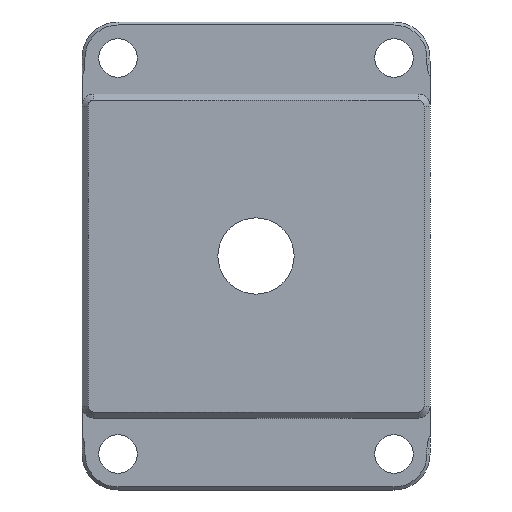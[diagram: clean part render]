
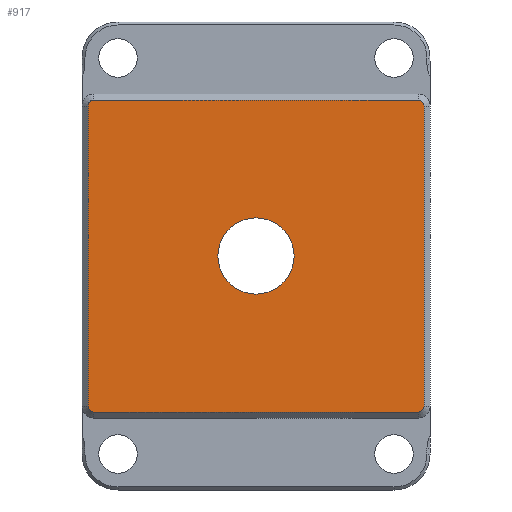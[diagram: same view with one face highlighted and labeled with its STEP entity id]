
A CAD part, front view. The second image highlights one B-rep face of the part: STEP entity #917.
In plain terms, the highlighted planar face has unit normal (0, -1, 0).
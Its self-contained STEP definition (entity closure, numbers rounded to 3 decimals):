
#11 = AXIS2_PLACEMENT_3D ( 'NONE', #1232, #417, #1089 ) ;
#17 = ORIENTED_EDGE ( 'NONE', *, *, #125, .T. ) ;
#23 = DIRECTION ( 'NONE',  ( -1., 0., 0. ) ) ;
#42 = ORIENTED_EDGE ( 'NONE', *, *, #1201, .T. ) ;
#57 = ORIENTED_EDGE ( 'NONE', *, *, #349, .T. ) ;
#78 = VECTOR ( 'NONE', #509, 1000. ) ;
#88 = DIRECTION ( 'NONE',  ( 0., -1., 0. ) ) ;
#93 = EDGE_CURVE ( 'NONE', #1820, #1495, #1794, .T. ) ;
#110 = CARTESIAN_POINT ( 'NONE',  ( -13.5, -6., 13. ) ) ;
#124 = PLANE ( 'NONE',  #1065 ) ;
#125 = EDGE_CURVE ( 'NONE', #271, #945, #1291, .T. ) ;
#131 = AXIS2_PLACEMENT_3D ( 'NONE', #163, #837, #305 ) ;
#152 = CIRCLE ( 'NONE', #131, 0.5 ) ;
#163 = CARTESIAN_POINT ( 'NONE',  ( -13.5, -6., -12.5 ) ) ;
#171 = CIRCLE ( 'NONE', #238, 3.175 ) ;
#175 = VERTEX_POINT ( 'NONE', #1063 ) ;
#215 = EDGE_LOOP ( 'NONE', ( #482, #42, #1434, #914, #17, #57, #1370, #1487 ) ) ;
#222 = FACE_BOUND ( 'NONE', #1146, .T. ) ;
#228 = CARTESIAN_POINT ( 'NONE',  ( 14., -6., 12.5 ) ) ;
#238 = AXIS2_PLACEMENT_3D ( 'NONE', #265, #935, #428 ) ;
#265 = CARTESIAN_POINT ( 'NONE',  ( 0., -6., 0. ) ) ;
#271 = VERTEX_POINT ( 'NONE', #1412 ) ;
#294 = VERTEX_POINT ( 'NONE', #1558 ) ;
#305 = DIRECTION ( 'NONE',  ( 0., 0., 1. ) ) ;
#349 = EDGE_CURVE ( 'NONE', #945, #1820, #660, .T. ) ;
#389 = AXIS2_PLACEMENT_3D ( 'NONE', #897, #88, #916 ) ;
#417 = DIRECTION ( 'NONE',  ( 0., -1., 0. ) ) ;
#428 = DIRECTION ( 'NONE',  ( 0., 0., -1. ) ) ;
#453 = EDGE_CURVE ( 'NONE', #1495, #1107, #688, .T. ) ;
#482 = ORIENTED_EDGE ( 'NONE', *, *, #1583, .T. ) ;
#507 = DIRECTION ( 'NONE',  ( 0., 1., 0. ) ) ;
#509 = DIRECTION ( 'NONE',  ( 0., 0., -1. ) ) ;
#515 = CARTESIAN_POINT ( 'NONE',  ( -14., -6., -12.5 ) ) ;
#522 = DIRECTION ( 'NONE',  ( 0., 0., 1. ) ) ;
#530 = VECTOR ( 'NONE', #23, 1000. ) ;
#591 = ORIENTED_EDGE ( 'NONE', *, *, #1067, .F. ) ;
#660 = LINE ( 'NONE', #976, #530 ) ;
#663 = CARTESIAN_POINT ( 'NONE',  ( -14., -6., 12.5 ) ) ;
#688 = LINE ( 'NONE', #515, #78 ) ;
#723 = CARTESIAN_POINT ( 'NONE',  ( 0., -6., 0. ) ) ;
#728 = FACE_OUTER_BOUND ( 'NONE', #215, .T. ) ;
#752 = CARTESIAN_POINT ( 'NONE',  ( 0., -6., 3.175 ) ) ;
#799 = CARTESIAN_POINT ( 'NONE',  ( 13.5, -6., -13. ) ) ;
#824 = EDGE_CURVE ( 'NONE', #1620, #294, #1473, .T. ) ;
#837 = DIRECTION ( 'NONE',  ( 0., -1., 0. ) ) ;
#840 = CARTESIAN_POINT ( 'NONE',  ( -14., -6., -12.5 ) ) ;
#897 = CARTESIAN_POINT ( 'NONE',  ( 13.5, -6., 12.5 ) ) ;
#914 = ORIENTED_EDGE ( 'NONE', *, *, #1077, .T. ) ;
#916 = DIRECTION ( 'NONE',  ( 0., 0., 1. ) ) ;
#917 = ADVANCED_FACE ( 'NONE', ( #728, #222 ), #124, .F. ) ;
#933 = LINE ( 'NONE', #1013, #946 ) ;
#935 = DIRECTION ( 'NONE',  ( 0., -1., 0. ) ) ;
#945 = VERTEX_POINT ( 'NONE', #1196 ) ;
#946 = VECTOR ( 'NONE', #1728, 1000. ) ;
#976 = CARTESIAN_POINT ( 'NONE',  ( -13.5, -6., 13. ) ) ;
#1013 = CARTESIAN_POINT ( 'NONE',  ( 13.5, -6., -13. ) ) ;
#1019 = AXIS2_PLACEMENT_3D ( 'NONE', #1569, #1717, #1684 ) ;
#1063 = CARTESIAN_POINT ( 'NONE',  ( -13.5, -6., -13. ) ) ;
#1065 = AXIS2_PLACEMENT_3D ( 'NONE', #1793, #507, #1238 ) ;
#1067 = EDGE_CURVE ( 'NONE', #1173, #1673, #171, .T. ) ;
#1077 = EDGE_CURVE ( 'NONE', #294, #271, #1548, .T. ) ;
#1089 = DIRECTION ( 'NONE',  ( 0., 0., 1. ) ) ;
#1100 = CARTESIAN_POINT ( 'NONE',  ( 0., -6., -3.175 ) ) ;
#1107 = VERTEX_POINT ( 'NONE', #840 ) ;
#1146 = EDGE_LOOP ( 'NONE', ( #591, #1195 ) ) ;
#1173 = VERTEX_POINT ( 'NONE', #1100 ) ;
#1191 = VECTOR ( 'NONE', #522, 1000. ) ;
#1195 = ORIENTED_EDGE ( 'NONE', *, *, #1359, .F. ) ;
#1196 = CARTESIAN_POINT ( 'NONE',  ( 13.5, -6., 13. ) ) ;
#1201 = EDGE_CURVE ( 'NONE', #175, #1620, #933, .T. ) ;
#1232 = CARTESIAN_POINT ( 'NONE',  ( 13.5, -6., -12.5 ) ) ;
#1238 = DIRECTION ( 'NONE',  ( 0., 0., 1. ) ) ;
#1291 = CIRCLE ( 'NONE', #389, 0.5 ) ;
#1359 = EDGE_CURVE ( 'NONE', #1673, #1173, #1577, .T. ) ;
#1370 = ORIENTED_EDGE ( 'NONE', *, *, #93, .T. ) ;
#1412 = CARTESIAN_POINT ( 'NONE',  ( 14., -6., 12.5 ) ) ;
#1428 = AXIS2_PLACEMENT_3D ( 'NONE', #723, #1719, #1564 ) ;
#1434 = ORIENTED_EDGE ( 'NONE', *, *, #824, .T. ) ;
#1473 = CIRCLE ( 'NONE', #11, 0.5 ) ;
#1487 = ORIENTED_EDGE ( 'NONE', *, *, #453, .T. ) ;
#1495 = VERTEX_POINT ( 'NONE', #663 ) ;
#1548 = LINE ( 'NONE', #228, #1191 ) ;
#1558 = CARTESIAN_POINT ( 'NONE',  ( 14., -6., -12.5 ) ) ;
#1564 = DIRECTION ( 'NONE',  ( 0., 0., -1. ) ) ;
#1569 = CARTESIAN_POINT ( 'NONE',  ( -13.5, -6., 12.5 ) ) ;
#1577 = CIRCLE ( 'NONE', #1428, 3.175 ) ;
#1583 = EDGE_CURVE ( 'NONE', #1107, #175, #152, .T. ) ;
#1620 = VERTEX_POINT ( 'NONE', #799 ) ;
#1673 = VERTEX_POINT ( 'NONE', #752 ) ;
#1684 = DIRECTION ( 'NONE',  ( 0., 0., 1. ) ) ;
#1717 = DIRECTION ( 'NONE',  ( 0., -1., 0. ) ) ;
#1719 = DIRECTION ( 'NONE',  ( 0., -1., 0. ) ) ;
#1728 = DIRECTION ( 'NONE',  ( 1., 0., 0. ) ) ;
#1793 = CARTESIAN_POINT ( 'NONE',  ( 0., -6., 0. ) ) ;
#1794 = CIRCLE ( 'NONE', #1019, 0.5 ) ;
#1820 = VERTEX_POINT ( 'NONE', #110 ) ;
